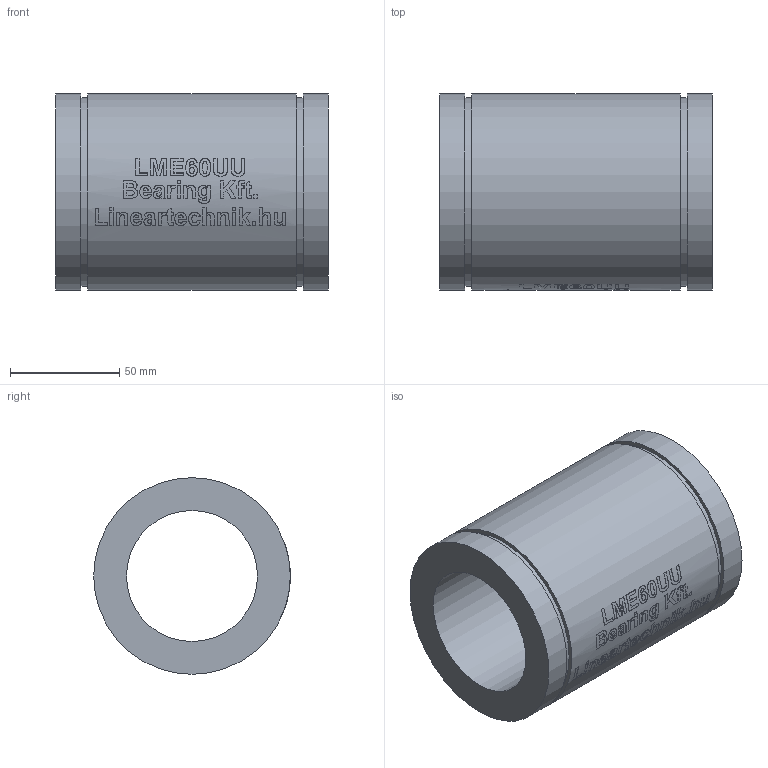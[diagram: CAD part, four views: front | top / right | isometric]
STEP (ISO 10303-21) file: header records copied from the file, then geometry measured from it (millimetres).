
FILE_DESCRIPTION(/* description */ (''),/* implementation_level */ '2;1');
FILE_NAME(/* name */ 'LME60UU',/* time_stamp */ '2019-05-17T10:33:48+02:00',/* author */ ('VĂ©gh MĂˇtĂ©'),/* organization */ ('Bearing Kft'),/* preprocessor_version */ 'ST-DEVELOPER v16.7',/* originating_system */ 'DEX',/* authorisation */ $);
FILE_SCHEMA (('AUTOMOTIVE_DESIGN {1 0 10303 214 3 1 1}'));
Length unit declared in the file: millimetre
Products named in the file (1): LME60UU
Bounding box: 125 x 90 x 90 mm (x, y, z)
Volume: 438649.8 mm3; surface area: 67949.5 mm2
Topology: 1 solids, 1 shells, 310 faces, 773 edges, 516 vertices
Faces by surface type: plane 163, bspline 94, cylinder 53
Full cylindrical faces by diameter (mm): 60 x1, 86.5 x2, 90 x3
Entity records: 24412 total; most frequent: CARTESIAN_POINT 17515, ORIENTED_EDGE 1522, DIRECTION 1152, EDGE_CURVE 761, VERTEX_POINT 514, LINE 422, VECTOR 422, EDGE_LOOP 373
